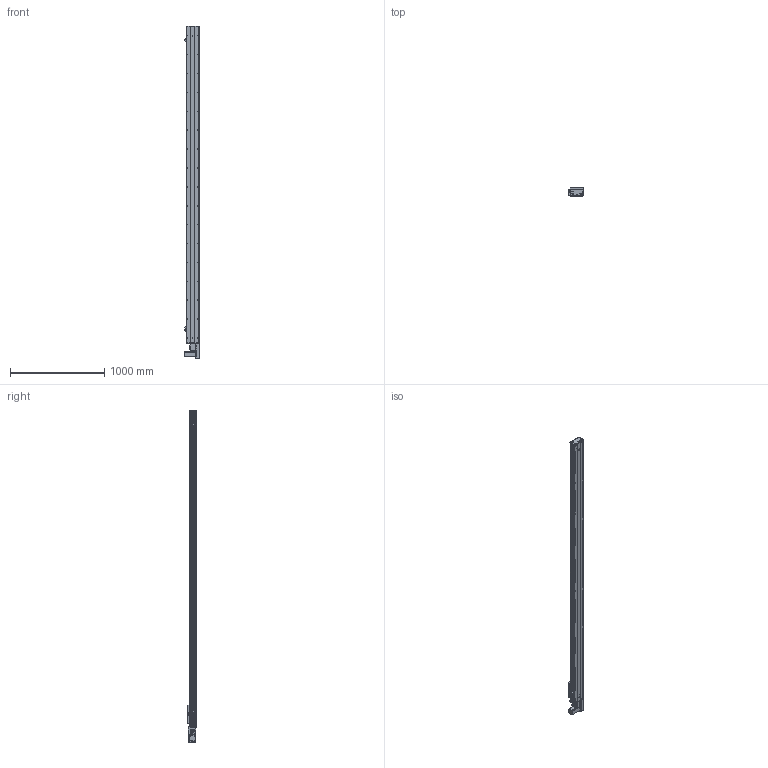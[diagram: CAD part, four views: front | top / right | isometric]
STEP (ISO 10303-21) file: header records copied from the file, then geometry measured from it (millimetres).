
FILE_DESCRIPTION (( 'STEP AP203' ), '1' );
FILE_NAME ('Y135CB-D90-S3050-BL-P400W.STEP', '2020-02-18T01:53:58', ( '微软用户' ), ( '微软中国' ), 'SwSTEP 2.0', 'SolidWorks 2017', '' );
FILE_SCHEMA (( 'CONFIG_CONTROL_DESIGN' ));
Length unit declared in the file: millimetre
Products named in the file (18): Y135C-陔俋离換覜結え-; 0B-埴倛裔啣; 5C--俋欶; 0B-源倛裔啣; Y135CB-耜裔; C-雄赽釱--; 0B-萇儂楊擘啣; 135CB---遴掛极.-; Y135CB-D90-S3050-BL-P400W; san松下电机400不带刹车----; 35CB---喘謫眊楊擘啣; 5CB --掛极耜裔啣-; Y10B--々湍喘謫眊--666; C-詩湍揤踡え-陔; Y10B-耜蚾蟀諉啣----; 135CB--詩湍-CE; Y俋欶BR----; Y100-135俋离換覜ん--
Assembly tree (21 placements, depth 2):
  Y135CB-D90-S3050-BL-P400W
    Y135CB-耜裔
    135CB---遴掛极.-
    35CB---喘謫眊楊擘啣
    Y10B--々湍喘謫眊--666
    Y10B-耜蚾蟀諉啣----
    Y俋欶BR----
    0B-埴倛裔啣
    0B-源倛裔啣
    0B-萇儂楊擘啣
    san松下电机400不带刹车----
    5CB --掛极耜裔啣-  x2
    C-詩湍揤踡え-陔  x2
    135CB--詩湍-CE
    Y100-135俋离換覜ん--  x3
    Y135C-陔俋离換覜結え-
    5C--俋欶
    C-雄赽釱--
Bounding box: 157.5 x 91 x 3514.5 mm (x, y, z)
Volume: 9711027.3 mm3; surface area: 3854470.2 mm2
Topology: 21 solids, 21 shells, 985 faces, 2707 edges, 1794 vertices
Faces by surface type: cylinder 511, plane 458, cone 16
Entity records: 31361 total; most frequent: CARTESIAN_POINT 5252, DIRECTION 5211, ORIENTED_EDGE 4890, EDGE_CURVE 2445, AXIS2_PLACEMENT_3D 1913, VERTEX_POINT 1622, VECTOR 1385, LINE 1385
